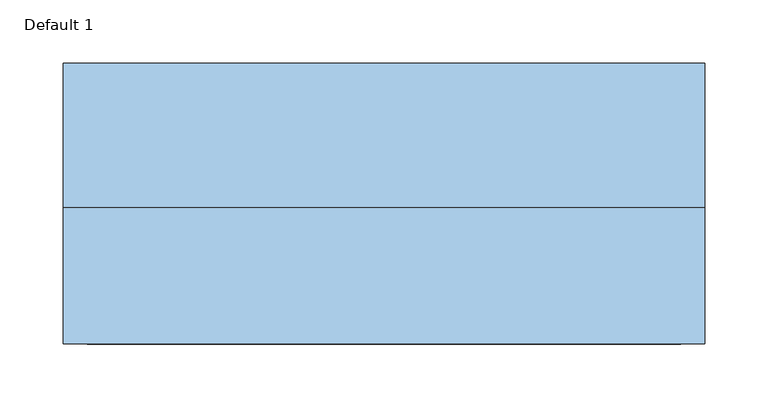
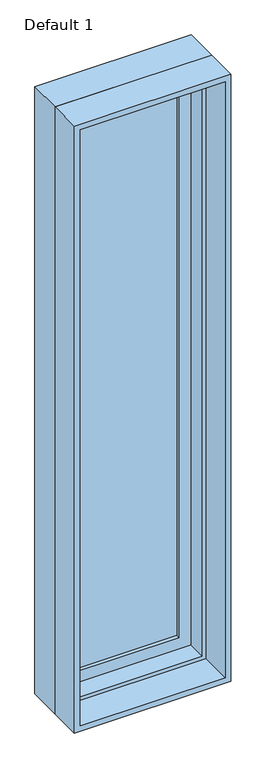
"""IFC4 building model written with IfcOpenShell, lengths in millimetres: window geometry, Planitar-Casement-Single_Left : Default 1."""

from ifc_helpers import new_model, si_unit, frame, origin, place, context, project, spatial, polyline, outline, extrude, faceted_brep, source, transform, mapped, element, save


def default_1_b9475a36(model_context):
    return source(origin(), model_context, "Body", "SolidModel", [
        extrude(outline(polyline([(184.15, 101.6), (184.15, 95.25), (-184.15, 95.25), (-184.15, 101.6), (184.15, 101.6)])), frame((0.0, 0.0, 984.25), z_axis=(0.0, 0.0, 1.0), x_axis=(1.0, 0.0, 0.0)), (0.0, 0.0, 1.0), 1943.1),
        extrude(outline(polyline([(-184.15, 82.55), (-184.15, 88.9), (184.15, 88.9), (184.15, 82.55), (-184.15, 82.55)])), frame((0.0, 0.0, 984.25), z_axis=(0.0, 0.0, 1.0), x_axis=(1.0, 0.0, 0.0)), (0.0, 0.0, 1.0), 1943.1),
        extrude(outline(polyline([(2984.5, -241.3), (927.1, -241.3), (927.1, 241.3), (2984.5, 241.3), (2984.5, -241.3)]), holes=[polyline([(2927.35, 184.15), (984.25, 184.15), (984.25, -184.15), (2927.35, -184.15), (2927.35, 184.15)])]), frame((0.0, 69.85, 0.0), z_axis=(0.0, 1.0, 0.0), x_axis=(0.0, 0.0, 1.0)), (0.0, 0.0, 1.0), 44.45),
        extrude(outline(polyline([(2997.2, -254.0), (914.4, -254.0), (914.4, 254.0), (2997.2, 254.0), (2997.2, -254.0)]), holes=[polyline([(2978.15, 234.95), (933.45, 234.95), (933.45, -234.95), (2978.15, -234.95), (2978.15, 234.95)])]), frame((0.0, -101.6, 0.0), z_axis=(0.0, 1.0, 0.0), x_axis=(0.0, 0.0, 1.0)), (0.0, 0.0, 1.0), 107.95),
        faceted_brep([(222.25, 69.85, 2965.45), (222.25, 6.35, 2965.45), (-222.25, 6.35, 2965.45), (-222.25, 69.85, 2965.45), (241.3, 120.65, 2984.5), (241.3, 69.85, 2984.5), (-241.3, 69.85, 2984.5), (-241.3, 120.65, 2984.5), (254.0, 6.35, 2997.2), (254.0, 120.65, 2997.2), (-254.0, 120.65, 2997.2), (-254.0, 6.35, 2997.2), (-222.25, 6.35, 946.15), (-222.25, 69.85, 946.15), (-241.3, 69.85, 927.1), (-241.3, 120.65, 927.1), (-254.0, 120.65, 914.4), (-254.0, 6.35, 914.4), (222.25, 6.35, 946.15), (222.25, 69.85, 946.15), (241.3, 69.85, 927.1), (241.3, 120.65, 927.1), (254.0, 120.65, 914.4), (254.0, 6.35, 914.4)], [[[0, 1, 2, 3]], [[4, 5, 6, 7]], [[8, 9, 10, 11]], [[3, 2, 12, 13]], [[7, 6, 14, 15]], [[11, 10, 16, 17]], [[13, 12, 18, 19]], [[15, 14, 20, 21]], [[17, 16, 22, 23]], [[11, 17, 23, 8], [1, 18, 12, 2]], [[19, 18, 1, 0]], [[5, 20, 14, 6], [3, 13, 19, 0]], [[21, 20, 5, 4]], [[23, 22, 9, 8]], [[9, 22, 16, 10], [7, 15, 21, 4]]]),
    ])


if __name__ == "__main__":
    model = new_model("IFC4")
    model_context = context("Model", 3, world=origin())
    ifc_project = project(units=[si_unit("LENGTHUNIT", "METRE", prefix="MILLI")], contexts=[model_context])
    site = spatial("IfcSite", under=ifc_project)
    building = spatial("IfcBuilding", under=site)
    placement = place(None, origin())
    default_1_shape = default_1_b9475a36(model_context)
    element("IfcWindow", 1, ObjectType="Planitar-Casement-Single_Left : Default 1", at=placement, inside=building, context=model_context, shape_type="MappedRepresentation", body=[
        mapped(default_1_shape, transform((0.0, 0.0, 0.0), x_axis=(1.0, 0.0, 0.0), y_axis=(0.0, 1.0, 0.0), z_axis=(0.0, 0.0, 1.0))),
    ])
    save(model, "model.ifc")
